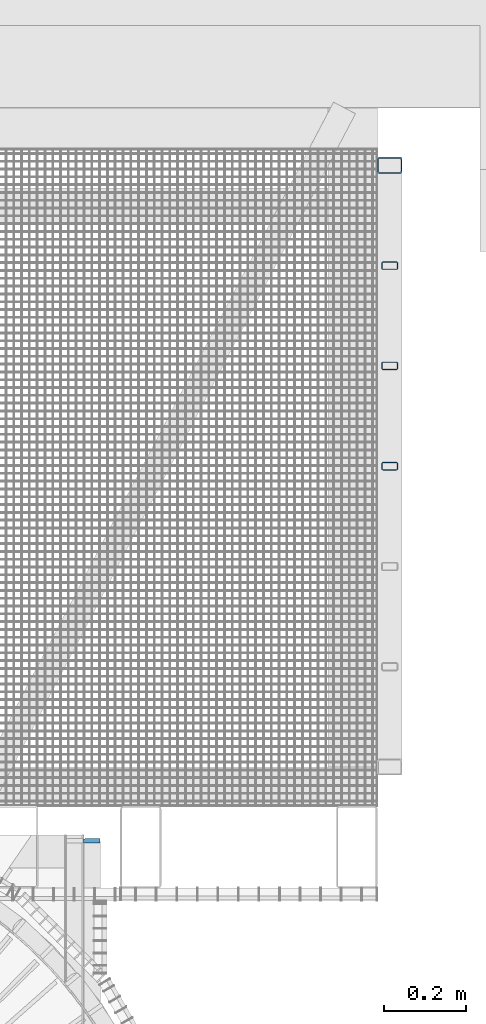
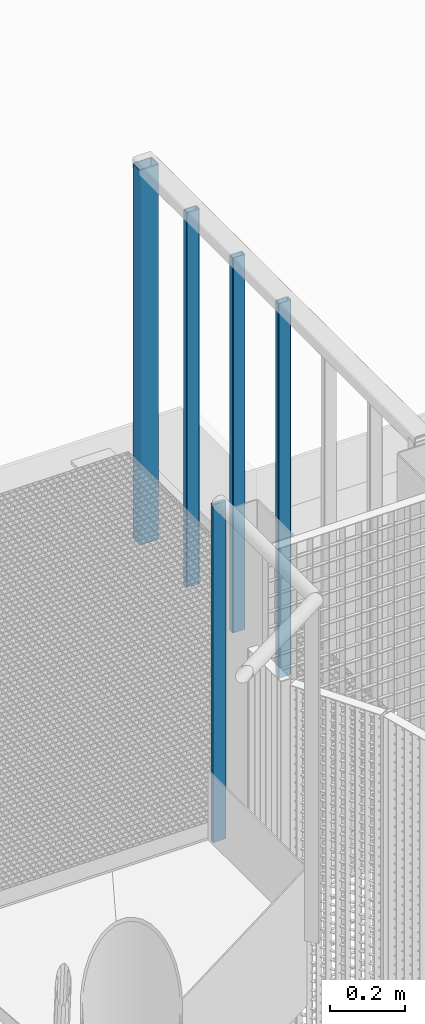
# One storey, part 74 of 1183: 5 columns, 5 elements without a shape of their own.
"""IFC2X3 building model written with IfcOpenShell, lengths in millimetres."""

import ifcopenshell
import ifcopenshell.guid

model = None  # the IFC model being written
_history = None  # IfcOwnerHistory: only IFC2X3 demands one
_inside = {}  # id of a spatial element -> (the spatial element, [elements in it])
_under = {}  # id of a project, library or spatial element -> (it, [spatial elements below it])
_declared = {}  # id of a project -> (the project, [libraries it declares])
_typed = {}  # id of a type object -> (the type object, [elements of that type])
_made_of = {}  # id of a material, layer set ... -> (it, [elements and type objects made of it])


def new_model(schema):
    """Start an empty IFC model of exactly this schema.

    Asked for "IFC4X3", IfcOpenShell would pick the latest addendum, in which some entities
    have other attributes; the version numbers below select the first issue.
    IFC2X3 requires an IfcOwnerHistory on every rooted entity: one is made here for all.
    """
    global model, _history
    if schema == "IFC4X3":
        model = ifcopenshell.file(schema_version=(4, 3, 0, 0))
    else:
        model = ifcopenshell.file(schema=schema)
    _inside.clear()
    _under.clear()
    _declared.clear()
    _typed.clear()
    _made_of.clear()
    _history = None
    if model.schema == "IFC2X3":
        org = make("IfcOrganization", Name="unknown")
        user = make(
            "IfcPersonAndOrganization",
            ThePerson=make("IfcPerson", FamilyName="unknown"),
            TheOrganization=org,
        )
        app = make(
            "IfcApplication",
            ApplicationDeveloper=org,
            Version="unknown",
            ApplicationFullName="unknown",
            ApplicationIdentifier="unknown",
        )
        _history = make(
            "IfcOwnerHistory",
            OwningUser=user,
            OwningApplication=app,
            ChangeAction="ADDED",
            CreationDate=0,
        )
    return model


def make(cls, **values):
    """One entity of the class cls with the attributes given. An attribute that is None is left unset."""
    return model.create_entity(
        cls, **{name: value for name, value in values.items() if value is not None}
    )


def rooted(cls, **values):
    """An entity with a GlobalId (a new one), such as an element, a storey or a relation."""
    return make(cls, GlobalId=ifcopenshell.guid.new(), OwnerHistory=_history, **values)


def si_unit(unit_type, name, prefix=None):
    """IfcSIUnit, for example si_unit("LENGTHUNIT", "METRE", prefix="MILLI")."""
    return make("IfcSIUnit", UnitType=unit_type, Prefix=prefix, Name=name)


def assignment(units):
    """IfcUnitAssignment: the units of a project."""
    return None if units is None else make("IfcUnitAssignment", Units=units)


def point(xyz):
    """IfcCartesianPoint."""
    return None if xyz is None else make("IfcCartesianPoint", Coordinates=xyz)


def direction(xyz):
    """IfcDirection."""
    return None if xyz is None else make("IfcDirection", DirectionRatios=xyz)


def frame(location, z_axis=None, x_axis=None):
    """IfcAxis2Placement3D, a coordinate frame: its origin and axes. An axis left out is left unset."""
    return make(
        "IfcAxis2Placement3D",
        Location=point(location),
        Axis=direction(z_axis),
        RefDirection=direction(x_axis),
    )


def frame_2d(location, x_axis=None):
    """IfcAxis2Placement2D, a coordinate frame in the plane: its origin and x axis."""
    return make(
        "IfcAxis2Placement2D", Location=point(location), RefDirection=direction(x_axis)
    )


def origin_with_axes():
    """The frame at (0, 0, 0) with the z axis (0, 0, 1) and the x axis (1, 0, 0) written out."""
    return frame((0.0, 0.0, 0.0), z_axis=(0.0, 0.0, 1.0), x_axis=(1.0, 0.0, 0.0))


def origin_2d_with_axis():
    """The frame at (0, 0) in the plane with the x axis (1, 0) written out."""
    return frame_2d((0.0, 0.0), x_axis=(1.0, 0.0))


def place(relative_to, where):
    """IfcLocalPlacement: puts the frame where relative to a parent placement (None: the world)."""
    return make(
        "IfcLocalPlacement", PlacementRelTo=relative_to, RelativePlacement=where
    )


def context(
    kind, dimensions, precision=None, world=None, true_north=None, identifier=None
):
    """IfcGeometricRepresentationContext, for example the 3D "Model" context."""
    return make(
        "IfcGeometricRepresentationContext",
        ContextIdentifier=identifier,
        ContextType=kind,
        CoordinateSpaceDimension=dimensions,
        Precision=precision,
        WorldCoordinateSystem=world,
        TrueNorth=true_north,
    )


def subcontext(parent, identifier, kind, view, scale=None):
    """IfcGeometricRepresentationSubContext, for example "Body" below "Model"."""
    return make(
        "IfcGeometricRepresentationSubContext",
        ContextIdentifier=identifier,
        ContextType=kind,
        ParentContext=parent,
        TargetScale=scale,
        TargetView=view,
    )


def project(units=None, contexts=None):
    """IfcProject with its units and contexts."""
    return rooted(
        "IfcProject",
        Name="project",
        RepresentationContexts=contexts,
        UnitsInContext=assignment(units),
    )


def spatial(cls, under=None, at=None, **own):
    """A site, building, storey or space (cls), placed at a placement, below another one or the project."""
    s = rooted(cls, ObjectPlacement=at, **own)
    if under is not None:
        _under.setdefault(under.id(), (under, []))[1].append(s)
    return s


def profile(cls, at=None, kind="AREA", **sizes):
    """A parametric profile (cls). Its sizes go by their IFC names, for example OverallWidth=200.0."""
    return make(cls, ProfileType=kind, Position=at, **sizes)


def rectangle(**sizes):
    """IfcRectangleProfileDef."""
    return profile("IfcRectangleProfileDef", **sizes)


def hollow_rectangle(**sizes):
    """IfcRectangleHollowProfileDef."""
    return profile("IfcRectangleHollowProfileDef", **sizes)


def extrude(swept, where, along, depth):
    """IfcExtrudedAreaSolid: the profile swept, set in the frame where, extruded along a direction by depth."""
    return make(
        "IfcExtrudedAreaSolid",
        SweptArea=swept,
        Position=where,
        ExtrudedDirection=direction(along),
        Depth=depth,
    )


def shape(context_of_items, identifier, shape_type, items):
    """IfcShapeRepresentation: the items that make up one representation, for example the "Body"."""
    return make(
        "IfcShapeRepresentation",
        ContextOfItems=context_of_items,
        RepresentationIdentifier=identifier,
        RepresentationType=shape_type,
        Items=items,
    )


def material(Name=None, Category=None):
    """IfcMaterial."""
    return make("IfcMaterial", Name=Name, Category=Category)


def made_of(thing, what):
    """Note that an element or type object is made of a material, layer set ...; save() writes the relation."""
    if what is not None:
        _made_of.setdefault(what.id(), (what, []))[1].append(thing)
    return thing


def type_object(cls, material=None, **own):
    """A type object (cls), such as IfcWallType, which elements share."""
    return made_of(rooted(cls, **own), material)


def element(
    cls,
    number,
    at=None,
    inside=None,
    cuts=None,
    type_object=None,
    material=None,
    context=None,
    identifier="Body",
    shape_type=None,
    held_by="IfcProductDefinitionShape",
    body=None,
    shapes=None,
    **own,
):
    """One element of the class cls, such as IfcWall. Its Tag is "e" and its number.

    at: its placement. inside: the storey or other place that contains it. cuts: it is an
    opening in that element (IfcRelVoidsElement). A single representation is given by context,
    identifier, shape_type and body (its items); several are given by shapes. held_by: the class
    of the entity that holds the representations. save() writes the other relations.
    """
    e = rooted(cls, Tag="e%d" % number, ObjectPlacement=at, **own)
    if body is not None:
        shapes = [shape(context, identifier, shape_type, body)]
    if shapes is not None:
        e.Representation = make(held_by, Representations=shapes)
    if inside is not None:
        _inside.setdefault(inside.id(), (inside, []))[1].append(e)
    if cuts is not None:
        rooted(
            "IfcRelVoidsElement", RelatingBuildingElement=cuts, RelatedOpeningElement=e
        )
    if type_object is not None:
        _typed.setdefault(type_object.id(), (type_object, []))[1].append(e)
    return made_of(e, material)


def aggregate(whole, parts):
    """IfcRelAggregates: a whole, such as a stair, and the parts it consists of."""
    return rooted("IfcRelAggregates", RelatingObject=whole, RelatedObjects=parts)


def save(model, path):
    """Write the relations noted so far, then the file.

    IfcRelAggregates (storeys below a building ...), IfcRelContainedInSpatialStructure (elements
    in a storey), IfcRelDefinesByType, IfcRelAssociatesMaterial and IfcRelDeclares: one each for
    every whole, place, type object, material and project.
    """
    for whole, parts in _under.values():
        aggregate(whole, parts)
    for where, things in _inside.values():
        rooted(
            "IfcRelContainedInSpatialStructure",
            RelatedElements=things,
            RelatingStructure=where,
        )
    for kind, things in _typed.values():
        rooted("IfcRelDefinesByType", RelatedObjects=things, RelatingType=kind)
    for what, things in _made_of.values():
        rooted("IfcRelAssociatesMaterial", RelatedObjects=things, RelatingMaterial=what)
    for by, libraries in _declared.values():
        rooted("IfcRelDeclares", RelatingContext=by, RelatedDefinitions=libraries)
    model.write(path)


model = new_model("IFC2X3")

# Units and contexts
model_context = context("Model", 3, precision=1e-05, world=origin_with_axes())
body_context = subcontext(model_context, "Body", "Model", "MODEL_VIEW")
ifc_project = project(units=[si_unit("LENGTHUNIT", "METRE", prefix="MILLI"), si_unit("AREAUNIT", "SQUARE_METRE"), si_unit("VOLUMEUNIT", "CUBIC_METRE"), si_unit("MASSUNIT", "GRAM", prefix="KILO"), si_unit("TIMEUNIT", "SECOND"), si_unit("PLANEANGLEUNIT", "RADIAN"), si_unit("SOLIDANGLEUNIT", "STERADIAN"), si_unit("THERMODYNAMICTEMPERATUREUNIT", "DEGREE_CELSIUS"), si_unit("LUMINOUSINTENSITYUNIT", "LUMEN")], contexts=[model_context])

# Site, building, storey
site_placement = place(None, origin_with_axes())
site = spatial("IfcSite", under=ifc_project, at=site_placement, Name="Undefined", CompositionType="ELEMENT")
building_placement = place(site_placement, origin_with_axes())
building = spatial("IfcBuilding", under=site, at=building_placement, Name="Undefined", CompositionType="ELEMENT")
storey_placement = place(building_placement, origin_with_axes())
storey = spatial("IfcBuildingStorey", under=building, at=storey_placement, Name="Undefined", CompositionType="ELEMENT", Elevation=0.0)

# Assembly, column
assembly_1_placement = place(storey_placement, origin_with_axes())
assembly_1 = element("IfcElementAssembly", 1, at=assembly_1_placement, inside=storey, Name="STANCHION", AssemblyPlace="NOTDEFINED", PredefinedType="NOTDEFINED")
ifc_material_1 = material(Name="Undefined/FE510D")
column_type_1 = type_object("IfcColumnType", Name="TUBE-R-40*20*2", PredefinedType="NOTDEFINED")
column_1_placement = place(assembly_1_placement, frame((23180.0649034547, 2415.85979616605, 17020.0), z_axis=(0.0, 0.0, 1.0), x_axis=(0.999999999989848, 4.50600000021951e-06, 0.0)))
column_1 = element("IfcColumn", 2, at=column_1_placement, type_object=column_type_1, material=ifc_material_1, Name="STANCHION", context=body_context, shape_type="SweptSolid", body=[
    extrude(hollow_rectangle(XDim=20.0, YDim=40.0, WallThickness=2.0, InnerFilletRadius=2.0, OuterFilletRadius=4.0, at=origin_2d_with_axis()), frame((0.0, 0.0, 1219.99999999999), z_axis=(0.0, 0.0, -1.0), x_axis=(0.0, 1.0, 0.0)), (0.0, 0.0, 1.0), 1220.0),
])
aggregate(assembly_1, [column_1])

assembly_2_placement = place(storey_placement, origin_with_axes())
assembly_2 = element("IfcElementAssembly", 3, at=assembly_2_placement, inside=storey, Name="STANCHION", AssemblyPlace="NOTDEFINED", PredefinedType="NOTDEFINED")
column_2_placement = place(assembly_2_placement, frame((23180.0660036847, 2171.68979616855, 17020.0), z_axis=(0.0, 0.0, 1.0), x_axis=(0.999999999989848, 4.50600000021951e-06, 0.0)))
column_2 = element("IfcColumn", 4, at=column_2_placement, type_object=column_type_1, material=ifc_material_1, Name="STANCHION", context=body_context, shape_type="SweptSolid", body=[
    extrude(hollow_rectangle(XDim=20.0, YDim=40.0, WallThickness=2.0, InnerFilletRadius=2.0, OuterFilletRadius=4.0, at=origin_2d_with_axis()), frame((0.0, 0.0, 1219.99999999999), z_axis=(0.0, 0.0, -1.0), x_axis=(0.0, 1.0, 0.0)), (0.0, 0.0, 1.0), 1220.0),
])
aggregate(assembly_2, [column_2])

assembly_3_placement = place(storey_placement, origin_with_axes())
assembly_3 = element("IfcElementAssembly", 5, at=assembly_3_placement, inside=storey, Name="STANCHION", AssemblyPlace="NOTDEFINED", PredefinedType="NOTDEFINED")
column_3_placement = place(assembly_3_placement, frame((23180.0671039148, 1927.51979617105, 17020.0), z_axis=(0.0, 0.0, 1.0), x_axis=(0.999999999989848, 4.50600000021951e-06, 0.0)))
column_3 = element("IfcColumn", 6, at=column_3_placement, type_object=column_type_1, material=ifc_material_1, Name="STANCHION", context=body_context, shape_type="SweptSolid", body=[
    extrude(hollow_rectangle(XDim=20.0, YDim=40.0, WallThickness=2.0, InnerFilletRadius=2.0, OuterFilletRadius=4.0, at=origin_2d_with_axis()), frame((0.0, 0.0, 1219.99999999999), z_axis=(0.0, 0.0, -1.0), x_axis=(0.0, 1.0, 0.0)), (0.0, 0.0, 1.0), 1220.0),
])
aggregate(assembly_3, [column_3])

assembly_4_placement = place(storey_placement, origin_with_axes())
assembly_4 = element("IfcElementAssembly", 7, at=assembly_4_placement, inside=storey, Name="STANCHION", AssemblyPlace="NOTDEFINED", PredefinedType="NOTDEFINED")
column_type_2 = type_object("IfcColumnType", Name="TUBE-R-60*40*3", PredefinedType="NOTDEFINED")
column_4_placement = place(assembly_4_placement, frame((23180.0636534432, 2660.00840282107, 17020.0), z_axis=(0.0, 0.0, 1.0), x_axis=(0.999999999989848, 4.50600000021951e-06, 0.0)))
column_4 = element("IfcColumn", 8, at=column_4_placement, type_object=column_type_2, material=ifc_material_1, Name="STANCHION", context=body_context, shape_type="SweptSolid", body=[
    extrude(hollow_rectangle(XDim=40.0, YDim=60.0, WallThickness=3.0, InnerFilletRadius=3.0, OuterFilletRadius=6.0, at=origin_2d_with_axis()), frame((0.0, 0.0, 1219.99999999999), z_axis=(0.0, 0.0, -1.0), x_axis=(0.0, 1.0, 0.0)), (0.0, 0.0, 1.0), 1220.0),
])
aggregate(assembly_4, [column_4])

assembly_5_placement = place(storey_placement, origin_with_axes())
assembly_5 = element("IfcElementAssembly", 9, at=assembly_5_placement, inside=storey, Name="MONTANT", AssemblyPlace="NOTDEFINED", PredefinedType="NOTDEFINED")
ifc_material_2 = material(Name="STEEL/S235JR")
column_type_3 = type_object("IfcColumnType", Name="PL10*40", PredefinedType="NOTDEFINED")
column_5_placement = place(assembly_5_placement, frame((22454.8721207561, 1015.37075756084, 17289.84), z_axis=(0.0, 0.0, 1.0), x_axis=(-0.999999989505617, -0.000144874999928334, 0.0)))
column_5 = element("IfcColumn", 10, at=column_5_placement, type_object=column_type_3, material=ifc_material_2, Name="MONTANT", context=body_context, shape_type="SweptSolid", body=[
    extrude(rectangle(XDim=10.0, YDim=40.0, at=origin_2d_with_axis()), frame((0.0, 0.0, 1100.0), z_axis=(0.0, 0.0, -1.0), x_axis=(0.0, 1.0, 0.0)), (0.0, 0.0, 1.0), 1100.0),
])
aggregate(assembly_5, [column_5])

save(model, "model.ifc")
